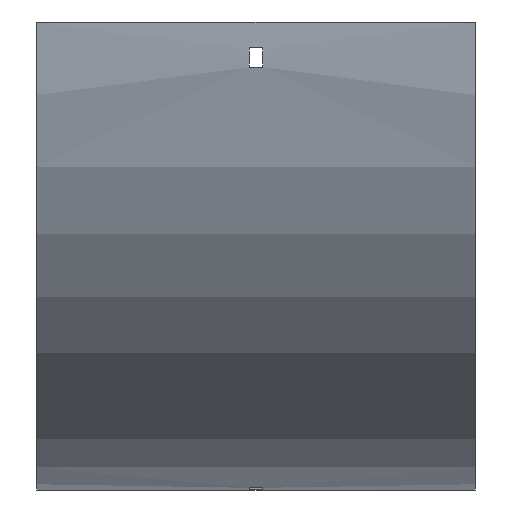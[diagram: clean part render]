
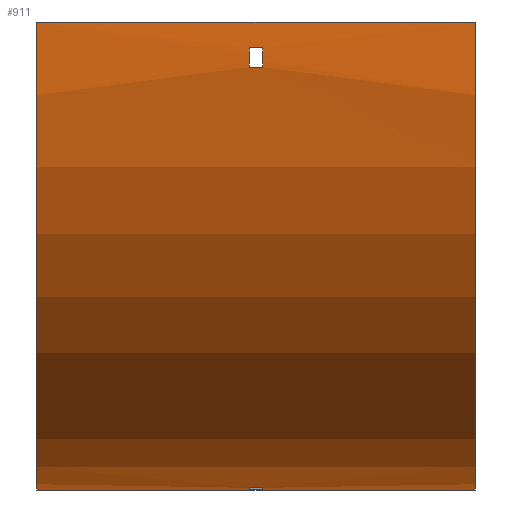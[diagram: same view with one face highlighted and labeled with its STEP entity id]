
A CAD part, front view. The second image highlights one B-rep face of the part: STEP entity #911.
In plain terms, the highlighted cylindrical face has radius 217.5 mm (diameter 435 mm), a partial arc.
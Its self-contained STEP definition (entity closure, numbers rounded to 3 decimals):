
#54 = VERTEX_POINT ( 'NONE', #364 ) ;
#63 = CARTESIAN_POINT ( 'NONE',  ( 102., 100., 0. ) ) ;
#68 = DIRECTION ( 'NONE',  ( 0., 0., -1. ) ) ;
#73 = AXIS2_PLACEMENT_3D ( 'NONE', #978, #327, #571 ) ;
#78 = VECTOR ( 'NONE', #698, 1000. ) ;
#79 = AXIS2_PLACEMENT_3D ( 'NONE', #834, #1066, #1599 ) ;
#88 = EDGE_CURVE ( 'NONE', #89, #405, #353, .T. ) ;
#89 = VERTEX_POINT ( 'NONE', #856 ) ;
#105 = VERTEX_POINT ( 'NONE', #603 ) ;
#142 = ORIENTED_EDGE ( 'NONE', *, *, #1391, .F. ) ;
#149 = EDGE_LOOP ( 'NONE', ( #926, #1528, #1398, #378 ) ) ;
#185 = DIRECTION ( 'NONE',  ( -1., 0., 0. ) ) ;
#216 = LINE ( 'NONE', #1132, #1223 ) ;
#224 = CARTESIAN_POINT ( 'NONE',  ( -3.25, -116.484, -21. ) ) ;
#299 = AXIS2_PLACEMENT_3D ( 'NONE', #696, #535, #1591 ) ;
#303 = CARTESIAN_POINT ( 'NONE',  ( -102., -117.5, 0. ) ) ;
#327 = DIRECTION ( 'NONE',  ( 1., 0., 0. ) ) ;
#328 = EDGE_CURVE ( 'NONE', #54, #89, #1594, .T. ) ;
#332 = CIRCLE ( 'NONE', #73, 217.5 ) ;
#348 = EDGE_CURVE ( 'NONE', #405, #640, #1276, .T. ) ;
#353 = LINE ( 'NONE', #882, #1644 ) ;
#364 = CARTESIAN_POINT ( 'NONE',  ( -3.25, 79., -216.484 ) ) ;
#378 = ORIENTED_EDGE ( 'NONE', *, *, #88, .F. ) ;
#389 = LINE ( 'NONE', #1162, #1551 ) ;
#404 = VERTEX_POINT ( 'NONE', #1355 ) ;
#405 = VERTEX_POINT ( 'NONE', #437 ) ;
#429 = VERTEX_POINT ( 'NONE', #990 ) ;
#437 = CARTESIAN_POINT ( 'NONE',  ( 3.25, 88., -217.169 ) ) ;
#443 = CARTESIAN_POINT ( 'NONE',  ( -3.25, 100., 0. ) ) ;
#464 = VERTEX_POINT ( 'NONE', #224 ) ;
#466 = CARTESIAN_POINT ( 'NONE',  ( 102., 100., -217.5 ) ) ;
#471 = DIRECTION ( 'NONE',  ( 0., 0., 1. ) ) ;
#506 = EDGE_CURVE ( 'NONE', #404, #818, #216, .T. ) ;
#534 = DIRECTION ( 'NONE',  ( -1., 0., 0. ) ) ;
#535 = DIRECTION ( 'NONE',  ( 1., 0., 0. ) ) ;
#570 = AXIS2_PLACEMENT_3D ( 'NONE', #443, #1572, #1318 ) ;
#571 = DIRECTION ( 'NONE',  ( 0., 0., -1. ) ) ;
#603 = CARTESIAN_POINT ( 'NONE',  ( 102., 100., -217.5 ) ) ;
#624 = CIRCLE ( 'NONE', #299, 217.5 ) ;
#640 = VERTEX_POINT ( 'NONE', #642 ) ;
#642 = CARTESIAN_POINT ( 'NONE',  ( 3.25, 79., -216.484 ) ) ;
#647 = ORIENTED_EDGE ( 'NONE', *, *, #506, .T. ) ;
#651 = VECTOR ( 'NONE', #1134, 1000. ) ;
#670 = DIRECTION ( 'NONE',  ( 0., 0., 1. ) ) ;
#696 = CARTESIAN_POINT ( 'NONE',  ( -102., 100., 0. ) ) ;
#698 = DIRECTION ( 'NONE',  ( -1., 0., 0. ) ) ;
#740 = DIRECTION ( 'NONE',  ( -1., 0., 0. ) ) ;
#789 = EDGE_CURVE ( 'NONE', #818, #1086, #624, .T. ) ;
#818 = VERTEX_POINT ( 'NONE', #303 ) ;
#821 = EDGE_CURVE ( 'NONE', #464, #1596, #952, .T. ) ;
#822 = CIRCLE ( 'NONE', #1661, 217.5 ) ;
#834 = CARTESIAN_POINT ( 'NONE',  ( -3.25, 100., 0. ) ) ;
#856 = CARTESIAN_POINT ( 'NONE',  ( -3.25, 88., -217.169 ) ) ;
#873 = AXIS2_PLACEMENT_3D ( 'NONE', #964, #1320, #670 ) ;
#882 = CARTESIAN_POINT ( 'NONE',  ( 102., 88., -217.169 ) ) ;
#884 = DIRECTION ( 'NONE',  ( -1., 0., 0. ) ) ;
#911 = ADVANCED_FACE ( 'NONE', ( #1124, #1621, #1491 ), #971, .T. ) ;
#926 = ORIENTED_EDGE ( 'NONE', *, *, #328, .F. ) ;
#943 = EDGE_LOOP ( 'NONE', ( #1256, #969, #1032, #1385 ) ) ;
#952 = CIRCLE ( 'NONE', #570, 217.5 ) ;
#956 = LINE ( 'NONE', #1480, #78 ) ;
#964 = CARTESIAN_POINT ( 'NONE',  ( 3.25, 100., 0. ) ) ;
#969 = ORIENTED_EDGE ( 'NONE', *, *, #821, .T. ) ;
#971 = CYLINDRICAL_SURFACE ( 'NONE', #1119, 217.5 ) ;
#978 = CARTESIAN_POINT ( 'NONE',  ( 3.25, 100., 0. ) ) ;
#990 = CARTESIAN_POINT ( 'NONE',  ( 3.25, -116.484, -21. ) ) ;
#1005 = EDGE_CURVE ( 'NONE', #429, #464, #389, .T. ) ;
#1008 = CARTESIAN_POINT ( 'NONE',  ( 102., 100., 0. ) ) ;
#1032 = ORIENTED_EDGE ( 'NONE', *, *, #1296, .T. ) ;
#1066 = DIRECTION ( 'NONE',  ( 1., 0., 0. ) ) ;
#1086 = VERTEX_POINT ( 'NONE', #1544 ) ;
#1103 = LINE ( 'NONE', #1619, #651 ) ;
#1119 = AXIS2_PLACEMENT_3D ( 'NONE', #63, #185, #471 ) ;
#1124 = FACE_OUTER_BOUND ( 'NONE', #1653, .T. ) ;
#1132 = CARTESIAN_POINT ( 'NONE',  ( 102., -117.5, 0. ) ) ;
#1134 = DIRECTION ( 'NONE',  ( 1., 0., 0. ) ) ;
#1157 = EDGE_CURVE ( 'NONE', #1324, #429, #332, .T. ) ;
#1162 = CARTESIAN_POINT ( 'NONE',  ( 102., -116.484, -21. ) ) ;
#1223 = VECTOR ( 'NONE', #740, 1000. ) ;
#1246 = EDGE_CURVE ( 'NONE', #105, #1086, #1626, .T. ) ;
#1255 = VECTOR ( 'NONE', #534, 1000. ) ;
#1256 = ORIENTED_EDGE ( 'NONE', *, *, #1005, .T. ) ;
#1276 = CIRCLE ( 'NONE', #873, 217.5 ) ;
#1296 = EDGE_CURVE ( 'NONE', #1596, #1324, #1103, .T. ) ;
#1318 = DIRECTION ( 'NONE',  ( 0., 0., 1. ) ) ;
#1320 = DIRECTION ( 'NONE',  ( -1., 0., 0. ) ) ;
#1324 = VERTEX_POINT ( 'NONE', #1378 ) ;
#1355 = CARTESIAN_POINT ( 'NONE',  ( 102., -117.5, 0. ) ) ;
#1378 = CARTESIAN_POINT ( 'NONE',  ( 3.25, -117.169, -12. ) ) ;
#1385 = ORIENTED_EDGE ( 'NONE', *, *, #1157, .T. ) ;
#1391 = EDGE_CURVE ( 'NONE', #404, #105, #822, .T. ) ;
#1398 = ORIENTED_EDGE ( 'NONE', *, *, #348, .F. ) ;
#1480 = CARTESIAN_POINT ( 'NONE',  ( 102., 79., -216.484 ) ) ;
#1490 = ORIENTED_EDGE ( 'NONE', *, *, #1246, .F. ) ;
#1491 = FACE_BOUND ( 'NONE', #149, .T. ) ;
#1528 = ORIENTED_EDGE ( 'NONE', *, *, #1655, .F. ) ;
#1544 = CARTESIAN_POINT ( 'NONE',  ( -102., 100., -217.5 ) ) ;
#1551 = VECTOR ( 'NONE', #884, 1000. ) ;
#1572 = DIRECTION ( 'NONE',  ( -1., 0., 0. ) ) ;
#1591 = DIRECTION ( 'NONE',  ( 0., 0., -1. ) ) ;
#1593 = CARTESIAN_POINT ( 'NONE',  ( -3.25, -117.169, -12. ) ) ;
#1594 = CIRCLE ( 'NONE', #79, 217.5 ) ;
#1596 = VERTEX_POINT ( 'NONE', #1593 ) ;
#1599 = DIRECTION ( 'NONE',  ( 0., 1., 0. ) ) ;
#1619 = CARTESIAN_POINT ( 'NONE',  ( 102., -117.169, -12. ) ) ;
#1621 = FACE_BOUND ( 'NONE', #943, .T. ) ;
#1626 = LINE ( 'NONE', #466, #1255 ) ;
#1635 = DIRECTION ( 'NONE',  ( 1., 0., 0. ) ) ;
#1641 = DIRECTION ( 'NONE',  ( 1., 0., 0. ) ) ;
#1644 = VECTOR ( 'NONE', #1641, 1000. ) ;
#1653 = EDGE_LOOP ( 'NONE', ( #1691, #1490, #142, #647 ) ) ;
#1655 = EDGE_CURVE ( 'NONE', #640, #54, #956, .T. ) ;
#1661 = AXIS2_PLACEMENT_3D ( 'NONE', #1008, #1635, #68 ) ;
#1691 = ORIENTED_EDGE ( 'NONE', *, *, #789, .T. ) ;
